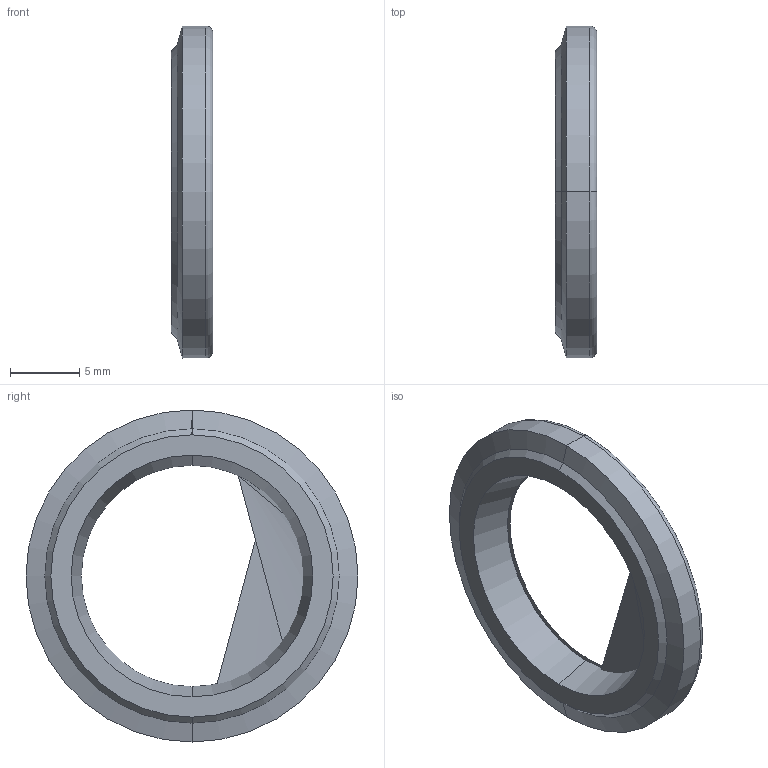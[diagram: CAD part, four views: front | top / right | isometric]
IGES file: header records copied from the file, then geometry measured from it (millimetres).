
Start section: 3D InterOp IGES (Version 21 0 1), Spatial Corp. Copyright (c) 1999-2007.
Global section: file name: CBX-16.igs; native system: Spatial Corp.; preprocessor: 3D InterOp GENERIC/IGES 3.0; author: Noname; organization: Noname; date: 20220217.161922; units: millimetre
Bounding box: 3 x 24 x 24 mm (x, y, z)
Surface area: 814 mm2 (no closed solid volume)
Topology: 0 solids, 0 shells, 20 faces, 80 edges, 80 vertices
Faces by surface type: revolution 16, extrusion 4
